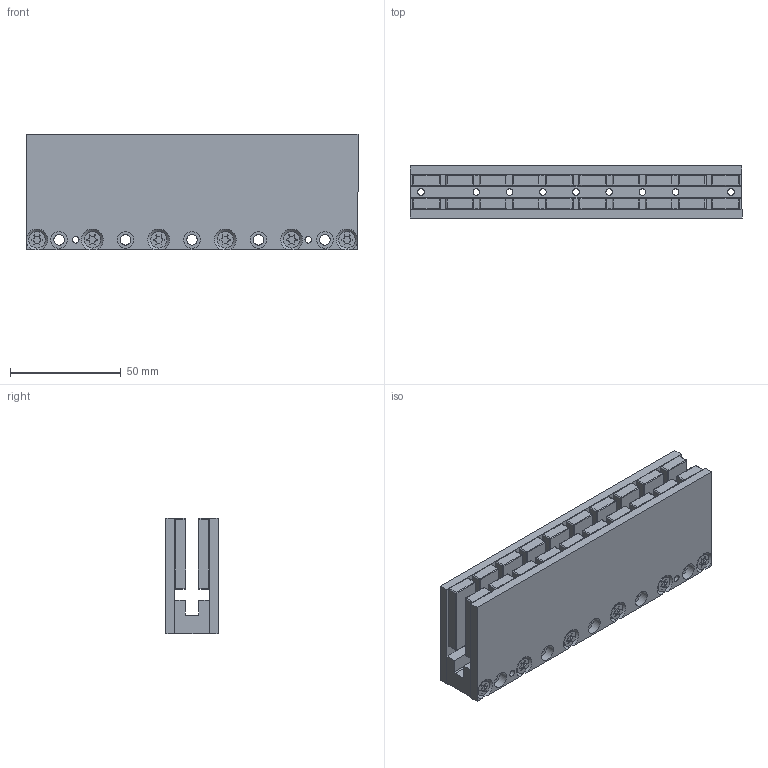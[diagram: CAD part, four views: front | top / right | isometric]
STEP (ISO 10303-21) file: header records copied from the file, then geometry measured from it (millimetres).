
FILE_DESCRIPTION( ( 'Unknown' ), '1' );
FILE_NAME( 'G:/_archief/Cad/_cadsoli/Produkten/U M vacuum/UMX Yoke/Iron Less_UMV_150 mm_MagnetPlate_CAD_140224.stp', 'Unknown', ( 'Unknown' ), ( 'Unknown' ), 'PSStep 16.0.42', 'Unknown', ' ' );
FILE_SCHEMA( ( 'AUTOMOTIVE_DESIGN { 1 0 10303 214 1 1 1 1 }' ) );
Length unit declared in the file: millimetre
Products named in the file (15): 4022 368 11051_0; 4022 363 70881_0; 4022 363 50471_0; 4022 363 50471-oa0; 4022 363 50471-oa1; 4022 363 50471-oa2; 4022 363 50471-oa3; 4022 363 50471-oa4; 4022 363 50471-oa5; 4022 363 50471-oa6; 4022 363 50471-oa7; 4022 363 50471-oa8; Assem1; 4022 363 82941_0; 2522 203 04034
Assembly tree (26 placements, depth 3):
  Assem1
    4022 363 82941_0
    2522 203 04034  x12
    4022 368 11051_0  x2
      4022 363 70881_0
      4022 363 50471_0
      4022 363 50471-oa0
      4022 363 50471-oa1
      4022 363 50471-oa2
      4022 363 50471-oa3
      4022 363 50471-oa4
      4022 363 50471-oa5
      4022 363 50471-oa6
      4022 363 50471-oa7
      4022 363 50471-oa8
Bounding box: 149.9 x 23.6 x 52 mm (x, y, z)
Volume: 126150.1 mm3; surface area: 75047.1 mm2
Topology: 35 solids, 35 shells, 1089 faces, 2660 edges, 1666 vertices
Faces by surface type: cylinder 531, plane 374, bspline 160, cone 24
Full cylindrical faces by diameter (mm): 0.01 x40, 3 x24, 3.3 x6, 4 x12, 4.5 x12, 4.8 x5, 7.4 x12, 7.5 x10
Entity records: 18382 total; most frequent: CARTESIAN_POINT 4718, DIRECTION 2176, ORIENTED_EDGE 1912, EDGE_CURVE 956, AXIS2_PLACEMENT_3D 886, VERTEX_POINT 624, EDGE_LOOP 598, CIRCLE 504
